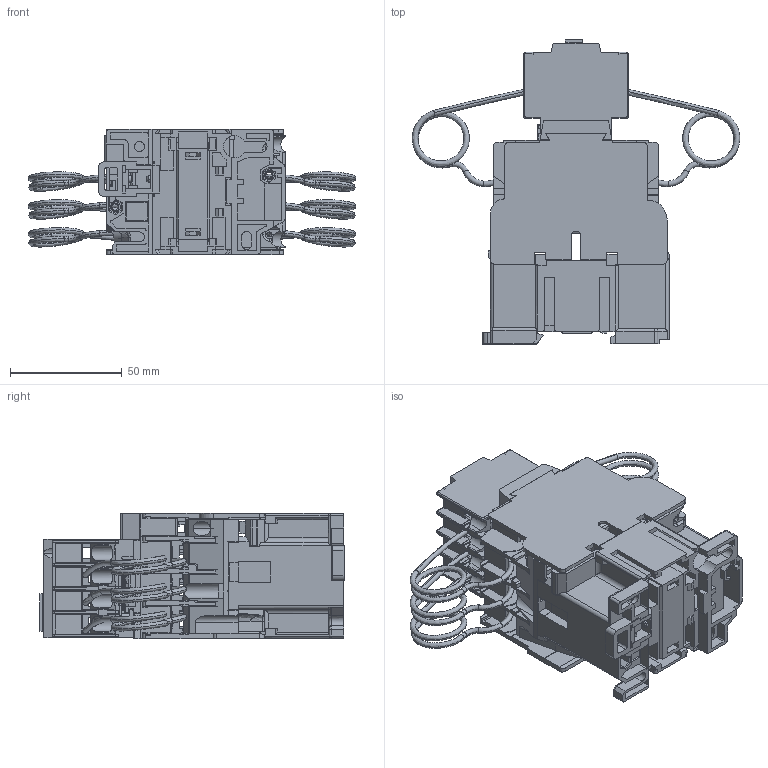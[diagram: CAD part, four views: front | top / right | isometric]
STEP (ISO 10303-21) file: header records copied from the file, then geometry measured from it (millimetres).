
FILE_DESCRIPTION(/* description */ (''),/* implementation_level */ '2;1');
FILE_NAME(/* name */ 'm1417 _ent-kt-20_3D.stp',/* time_stamp */ '2026-04-13T14:26:42+03:00',/* author */ (''),/* organization */ (''),/* preprocessor_version */ 'ST-DEVELOPER v20',/* originating_system */ 'SIEMENS PLM Software NX2406.5001',/* authorisation */ '');
FILE_SCHEMA (('AP203_CONFIGURATION_CONTROLLED_3D_DESIGN_OF_MECHANICAL_PARTS_AND_ASSEMBLIES_MIM_LF { 1 0 10303 403 2 1 2}'));
Products named in the file (1): model1_objects
Bounding box: 146.7 x 136.2 x 56.2 mm (x, y, z)
Volume: 146814.3 mm3; surface area: 161119.9 mm2
Topology: 1 solids, 1 shells, 4740 faces, 14225 edges, 9212 vertices
Faces by surface type: plane 3727, cylinder 816, torus 126, bspline 26, sphere 22, cone 18, extrusion 4, revolution 1
Entity records: 163026 total; most frequent: CARTESIAN_POINT 34855, ORIENTED_EDGE 28406, DIRECTION 24578, EDGE_CURVE 14203, VECTOR 11641, LINE 11637, VERTEX_POINT 9212, AXIS2_PLACEMENT_3D 6468
